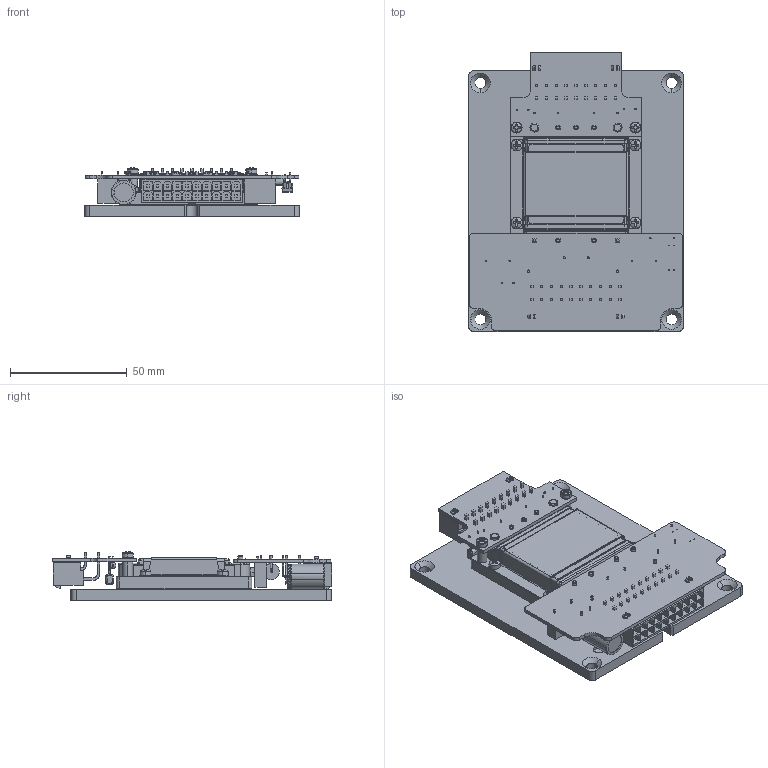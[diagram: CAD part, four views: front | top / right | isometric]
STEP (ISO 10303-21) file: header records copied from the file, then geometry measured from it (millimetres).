
FILE_DESCRIPTION (( 'STEP AP214' ), '1' );
FILE_NAME ('VA-G-PLUG-1OUT.STEP', '2011-02-18T19:30:37', ( 'Vicor Employee' ), ( 'Vicor Corporation' ), 'SwSTEP 2.0', 'SolidWorks 2011', '' );
FILE_SCHEMA (( 'AUTOMOTIVE_DESIGN' ));
Length unit declared in the file: inch
Products named in the file (1): VA-G-PLUG-1OUT
Bounding box: 92.28 x 119.69 x 20.73 mm (x, y, z)
Volume: 78615.8 mm3; surface area: 72399.1 mm2
Topology: 1 solids, 1 shells, 2779 faces, 7232 edges, 4607 vertices
Faces by surface type: plane 1700, cylinder 740, bspline 130, cone 99, torus 78, sphere 32
Entity records: 133603 total; most frequent: CARTESIAN_POINT 30119, ORIENTED_EDGE 14376, DIRECTION 13426, EDGE_CURVE 7188, LINE 4916, VECTOR 4916, VERTEX_POINT 4607, AXIS2_PLACEMENT_3D 4255
